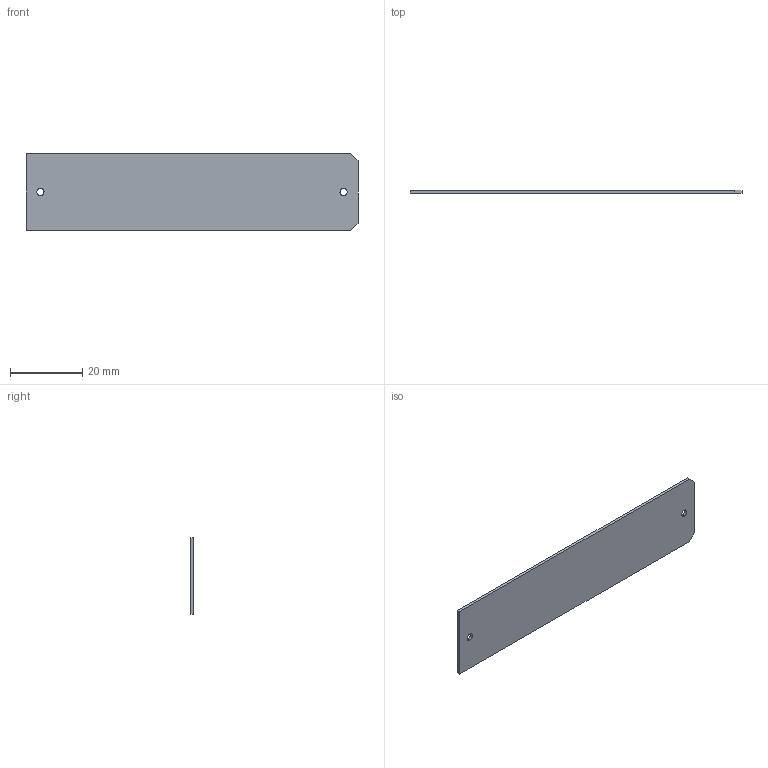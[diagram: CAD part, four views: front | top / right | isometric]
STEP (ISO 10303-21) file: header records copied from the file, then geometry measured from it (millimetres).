
FILE_DESCRIPTION (( 'STEP AP214' ), '1' );
FILE_NAME ('LBRX-00-080-3-POLARIZER-H.STEP', '2021-11-05T05:19:55', ( '' ), ( '' ), 'SwSTEP 2.0', 'SolidWorks 2021', '' );
FILE_SCHEMA (( 'AUTOMOTIVE_DESIGN' ));
Length unit declared in the file: millimetre
Products named in the file (1): LBRX-00-080-3-POLARIZER-H
Bounding box: 92 x 0.8 x 21.2 mm (x, y, z)
Volume: 1552.1 mm3; surface area: 4069.5 mm2
Topology: 1 solids, 1 shells, 12 faces, 30 edges, 20 vertices
Faces by surface type: plane 8, cylinder 4
Entity records: 404 total; most frequent: DIRECTION 64, CARTESIAN_POINT 63, ORIENTED_EDGE 60, EDGE_CURVE 30, VECTOR 22, LINE 22, AXIS2_PLACEMENT_3D 21, VERTEX_POINT 20
